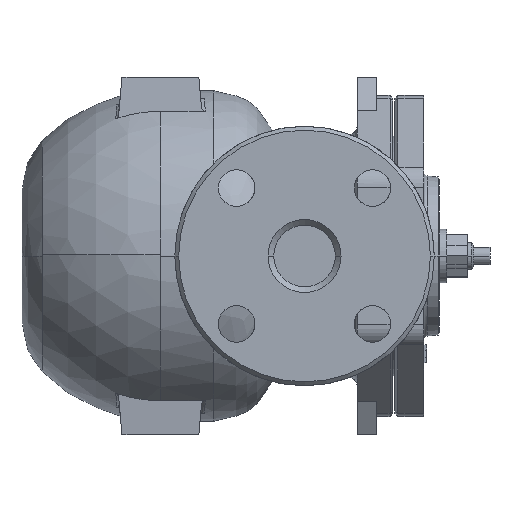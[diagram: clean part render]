
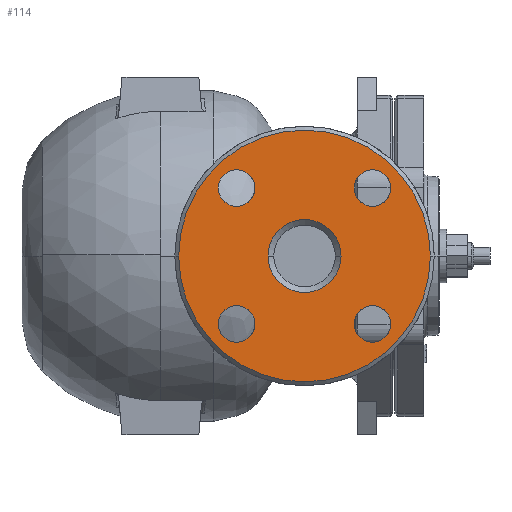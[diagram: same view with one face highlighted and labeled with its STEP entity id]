
A CAD part, left-side view. The second image highlights one B-rep face of the part: STEP entity #114.
In plain terms, the highlighted planar face has unit normal (-1, 0, 0).
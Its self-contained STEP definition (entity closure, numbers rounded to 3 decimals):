
#114=ADVANCED_FACE('',(#720,#721,#722,#723,#724,#725),#719,.T.);
#719=PLANE('',#3339);
#720=FACE_OUTER_BOUND('',#3340,.T.);
#721=FACE_BOUND('',#3341,.T.);
#722=FACE_BOUND('',#3342,.T.);
#723=FACE_BOUND('',#3343,.T.);
#724=FACE_BOUND('',#3344,.T.);
#725=FACE_BOUND('',#3345,.T.);
#3336=CARTESIAN_POINT('',(676.633,-123.449,-667.377));
#3337=DIRECTION('',(-1.,0.,0.));
#3338=DIRECTION('',(0.,0.,1.));
#3339=AXIS2_PLACEMENT_3D('',#3336,#3337,#3338);
#3340=EDGE_LOOP('',(#5597,#5598));
#3341=EDGE_LOOP('',(#5599,#5600));
#3342=EDGE_LOOP('',(#5601,#5602));
#3343=EDGE_LOOP('',(#5603,#5604));
#3344=EDGE_LOOP('',(#5605,#5606));
#3345=EDGE_LOOP('',(#5607,#5608));
#5597=ORIENTED_EDGE('',*,*,#6887,.T.);
#5598=ORIENTED_EDGE('',*,*,#6888,.T.);
#5599=ORIENTED_EDGE('',*,*,#6889,.T.);
#5600=ORIENTED_EDGE('',*,*,#6890,.T.);
#5601=ORIENTED_EDGE('',*,*,#6891,.T.);
#5602=ORIENTED_EDGE('',*,*,#6892,.T.);
#5603=ORIENTED_EDGE('',*,*,#6893,.T.);
#5604=ORIENTED_EDGE('',*,*,#6894,.T.);
#5605=ORIENTED_EDGE('',*,*,#6895,.T.);
#5606=ORIENTED_EDGE('',*,*,#6896,.T.);
#5607=ORIENTED_EDGE('',*,*,#6897,.T.);
#5608=ORIENTED_EDGE('',*,*,#6898,.T.);
#6887=EDGE_CURVE('',#8559,#8560,#8561,.T.);
#6888=EDGE_CURVE('',#8560,#8559,#8567,.T.);
#6889=EDGE_CURVE('',#8573,#8574,#8575,.T.);
#6890=EDGE_CURVE('',#8574,#8573,#8581,.T.);
#6891=EDGE_CURVE('',#8587,#8588,#8589,.T.);
#6892=EDGE_CURVE('',#8588,#8587,#8595,.T.);
#6893=EDGE_CURVE('',#8601,#8602,#8603,.T.);
#6894=EDGE_CURVE('',#8602,#8601,#8609,.T.);
#6895=EDGE_CURVE('',#8615,#8616,#8617,.T.);
#6896=EDGE_CURVE('',#8616,#8615,#8623,.T.);
#6897=EDGE_CURVE('',#8629,#8630,#8631,.T.);
#6898=EDGE_CURVE('',#8630,#8629,#8637,.T.);
#8559=VERTEX_POINT('',#12637);
#8560=VERTEX_POINT('',#12638);
#8561=CIRCLE('',#12642,65.5);
#8567=CIRCLE('',#12646,65.5);
#8573=VERTEX_POINT('',#12647);
#8574=VERTEX_POINT('',#12648);
#8575=CIRCLE('',#12652,9.5);
#8581=CIRCLE('',#12656,9.5);
#8587=VERTEX_POINT('',#12657);
#8588=VERTEX_POINT('',#12658);
#8589=CIRCLE('',#12662,19.);
#8595=CIRCLE('',#12666,19.);
#8601=VERTEX_POINT('',#12667);
#8602=VERTEX_POINT('',#12668);
#8603=CIRCLE('',#12672,9.5);
#8609=CIRCLE('',#12676,9.5);
#8615=VERTEX_POINT('',#12677);
#8616=VERTEX_POINT('',#12678);
#8617=CIRCLE('',#12682,9.5);
#8623=CIRCLE('',#12686,9.5);
#8629=VERTEX_POINT('',#12687);
#8630=VERTEX_POINT('',#12688);
#8631=CIRCLE('',#12692,9.5);
#8637=CIRCLE('',#12696,9.5);
#12637=CARTESIAN_POINT('',(676.633,0.,-460.877));
#12638=CARTESIAN_POINT('',(676.633,0.,-591.877));
#12639=CARTESIAN_POINT('',(676.633,0.,-526.377));
#12640=DIRECTION('',(-1.,0.,0.));
#12641=DIRECTION('',(0.,0.,1.));
#12642=AXIS2_PLACEMENT_3D('',#12639,#12640,#12641);
#12643=CARTESIAN_POINT('',(676.633,0.,-526.377));
#12644=DIRECTION('',(-1.,0.,0.));
#12645=DIRECTION('',(0.,0.,1.));
#12646=AXIS2_PLACEMENT_3D('',#12643,#12644,#12645);
#12647=CARTESIAN_POINT('',(676.633,-35.355,-552.233));
#12648=CARTESIAN_POINT('',(676.633,-35.355,-571.233));
#12649=CARTESIAN_POINT('',(676.633,-35.355,-561.733));
#12650=DIRECTION('',(1.,0.,0.));
#12651=DIRECTION('',(0.,0.,1.));
#12652=AXIS2_PLACEMENT_3D('',#12649,#12650,#12651);
#12653=CARTESIAN_POINT('',(676.633,-35.355,-561.733));
#12654=DIRECTION('',(1.,0.,0.));
#12655=DIRECTION('',(0.,0.,1.));
#12656=AXIS2_PLACEMENT_3D('',#12653,#12654,#12655);
#12657=CARTESIAN_POINT('',(676.633,0.,-507.377));
#12658=CARTESIAN_POINT('',(676.633,0.,-545.377));
#12659=CARTESIAN_POINT('',(676.633,0.,-526.377));
#12660=DIRECTION('',(1.,0.,0.));
#12661=DIRECTION('',(0.,0.,1.));
#12662=AXIS2_PLACEMENT_3D('',#12659,#12660,#12661);
#12663=CARTESIAN_POINT('',(676.633,0.,-526.377));
#12664=DIRECTION('',(1.,0.,0.));
#12665=DIRECTION('',(0.,0.,1.));
#12666=AXIS2_PLACEMENT_3D('',#12663,#12664,#12665);
#12667=CARTESIAN_POINT('',(676.633,35.355,-481.522));
#12668=CARTESIAN_POINT('',(676.633,35.355,-500.522));
#12669=CARTESIAN_POINT('',(676.633,35.355,-491.022));
#12670=DIRECTION('',(1.,0.,0.));
#12671=DIRECTION('',(0.,0.,1.));
#12672=AXIS2_PLACEMENT_3D('',#12669,#12670,#12671);
#12673=CARTESIAN_POINT('',(676.633,35.355,-491.022));
#12674=DIRECTION('',(1.,0.,0.));
#12675=DIRECTION('',(0.,0.,1.));
#12676=AXIS2_PLACEMENT_3D('',#12673,#12674,#12675);
#12677=CARTESIAN_POINT('',(676.633,35.355,-552.233));
#12678=CARTESIAN_POINT('',(676.633,35.355,-571.233));
#12679=CARTESIAN_POINT('',(676.633,35.355,-561.733));
#12680=DIRECTION('',(1.,0.,0.));
#12681=DIRECTION('',(0.,0.,1.));
#12682=AXIS2_PLACEMENT_3D('',#12679,#12680,#12681);
#12683=CARTESIAN_POINT('',(676.633,35.355,-561.733));
#12684=DIRECTION('',(1.,0.,0.));
#12685=DIRECTION('',(0.,0.,1.));
#12686=AXIS2_PLACEMENT_3D('',#12683,#12684,#12685);
#12687=CARTESIAN_POINT('',(676.633,-35.355,-481.522));
#12688=CARTESIAN_POINT('',(676.633,-35.355,-500.522));
#12689=CARTESIAN_POINT('',(676.633,-35.355,-491.022));
#12690=DIRECTION('',(1.,0.,0.));
#12691=DIRECTION('',(0.,0.,1.));
#12692=AXIS2_PLACEMENT_3D('',#12689,#12690,#12691);
#12693=CARTESIAN_POINT('',(676.633,-35.355,-491.022));
#12694=DIRECTION('',(1.,0.,0.));
#12695=DIRECTION('',(0.,0.,1.));
#12696=AXIS2_PLACEMENT_3D('',#12693,#12694,#12695);
